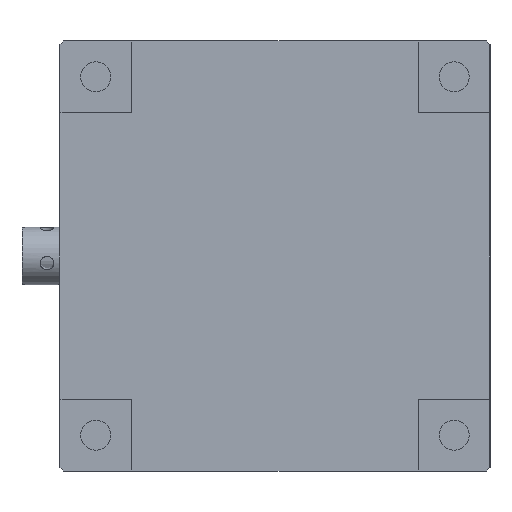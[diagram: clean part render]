
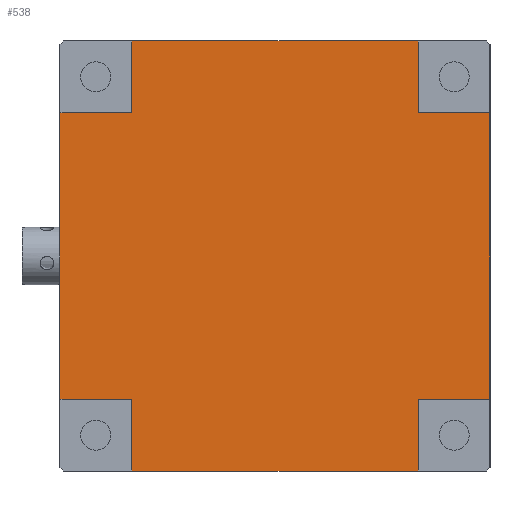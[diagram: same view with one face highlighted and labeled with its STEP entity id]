
A CAD part, front view. The second image highlights one B-rep face of the part: STEP entity #538.
In plain terms, the highlighted planar face has unit normal (0, -1, 0).
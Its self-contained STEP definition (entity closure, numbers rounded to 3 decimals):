
#22 = PLANE ( 'NONE',  #1274 ) ;
#46 = CARTESIAN_POINT ( 'NONE',  ( 0., 0.5, 0. ) ) ;
#211 = EDGE_CURVE ( 'NONE', #4213, #1615, #3093, .T. ) ;
#226 = ORIENTED_EDGE ( 'NONE', *, *, #1338, .F. ) ;
#228 = CARTESIAN_POINT ( 'NONE',  ( 0., 0.5, 10. ) ) ;
#233 = VECTOR ( 'NONE', #1187, 1000. ) ;
#241 = LINE ( 'NONE', #3134, #1198 ) ;
#297 = FACE_OUTER_BOUND ( 'NONE', #2827, .T. ) ;
#310 = CARTESIAN_POINT ( 'NONE',  ( 10., 0.5, 50. ) ) ;
#357 = VERTEX_POINT ( 'NONE', #228 ) ;
#413 = VECTOR ( 'NONE', #2462, 1000. ) ;
#444 = VERTEX_POINT ( 'NONE', #647 ) ;
#477 = CARTESIAN_POINT ( 'NONE',  ( 60., 0.5, 10. ) ) ;
#538 = ADVANCED_FACE ( 'NONE', ( #297 ), #22, .F. ) ;
#619 = LINE ( 'NONE', #971, #1986 ) ;
#638 = DIRECTION ( 'NONE',  ( 0., 0., 1. ) ) ;
#647 = CARTESIAN_POINT ( 'NONE',  ( 50., 0.5, 50. ) ) ;
#654 = VERTEX_POINT ( 'NONE', #4694 ) ;
#712 = EDGE_CURVE ( 'NONE', #887, #4192, #3730, .T. ) ;
#820 = LINE ( 'NONE', #3619, #960 ) ;
#835 = EDGE_CURVE ( 'NONE', #1615, #2717, #1902, .T. ) ;
#850 = CARTESIAN_POINT ( 'NONE',  ( 10., 0.5, 0. ) ) ;
#887 = VERTEX_POINT ( 'NONE', #4205 ) ;
#911 = EDGE_CURVE ( 'NONE', #4259, #1011, #2051, .T. ) ;
#934 = EDGE_CURVE ( 'NONE', #3988, #4018, #241, .T. ) ;
#960 = VECTOR ( 'NONE', #4014, 1000. ) ;
#971 = CARTESIAN_POINT ( 'NONE',  ( 0., 0.5, 10. ) ) ;
#1011 = VERTEX_POINT ( 'NONE', #3914 ) ;
#1182 = LINE ( 'NONE', #477, #3006 ) ;
#1187 = DIRECTION ( 'NONE',  ( 1., 0., 0. ) ) ;
#1198 = VECTOR ( 'NONE', #4606, 1000. ) ;
#1199 = ORIENTED_EDGE ( 'NONE', *, *, #911, .F. ) ;
#1274 = AXIS2_PLACEMENT_3D ( 'NONE', #46, #4004, #4309 ) ;
#1338 = EDGE_CURVE ( 'NONE', #4018, #4213, #1182, .T. ) ;
#1615 = VERTEX_POINT ( 'NONE', #3099 ) ;
#1637 = EDGE_CURVE ( 'NONE', #654, #357, #820, .T. ) ;
#1658 = CARTESIAN_POINT ( 'NONE',  ( 10., 0.5, 50. ) ) ;
#1672 = LINE ( 'NONE', #2494, #413 ) ;
#1680 = CARTESIAN_POINT ( 'NONE',  ( 60., 0.5, 50. ) ) ;
#1685 = DIRECTION ( 'NONE',  ( 1., 0., 0. ) ) ;
#1878 = DIRECTION ( 'NONE',  ( 0., 0., 1. ) ) ;
#1902 = LINE ( 'NONE', #3685, #3845 ) ;
#1917 = DIRECTION ( 'NONE',  ( -1., 0., 0. ) ) ;
#1945 = DIRECTION ( 'NONE',  ( 1., 0., 0. ) ) ;
#1986 = VECTOR ( 'NONE', #638, 1000. ) ;
#2051 = LINE ( 'NONE', #3499, #4098 ) ;
#2147 = ORIENTED_EDGE ( 'NONE', *, *, #2682, .F. ) ;
#2209 = ORIENTED_EDGE ( 'NONE', *, *, #4039, .F. ) ;
#2451 = ORIENTED_EDGE ( 'NONE', *, *, #712, .F. ) ;
#2462 = DIRECTION ( 'NONE',  ( 0., 0., -1. ) ) ;
#2494 = CARTESIAN_POINT ( 'NONE',  ( 50., 0.5, 60. ) ) ;
#2540 = ORIENTED_EDGE ( 'NONE', *, *, #934, .F. ) ;
#2588 = VECTOR ( 'NONE', #3519, 1000. ) ;
#2601 = CARTESIAN_POINT ( 'NONE',  ( 10., 0.5, 60. ) ) ;
#2667 = LINE ( 'NONE', #850, #4202 ) ;
#2673 = DIRECTION ( 'NONE',  ( -1., 0., 0. ) ) ;
#2682 = EDGE_CURVE ( 'NONE', #444, #3988, #3003, .T. ) ;
#2690 = CARTESIAN_POINT ( 'NONE',  ( 50., 0.5, 10. ) ) ;
#2692 = VECTOR ( 'NONE', #3480, 1000. ) ;
#2717 = VERTEX_POINT ( 'NONE', #4029 ) ;
#2768 = LINE ( 'NONE', #1658, #2588 ) ;
#2827 = EDGE_LOOP ( 'NONE', ( #4588, #226, #2540, #2147, #4651, #1199, #2209, #2451, #4229, #3289, #2966, #3423 ) ) ;
#2966 = ORIENTED_EDGE ( 'NONE', *, *, #3767, .F. ) ;
#3003 = LINE ( 'NONE', #3326, #233 ) ;
#3006 = VECTOR ( 'NONE', #1917, 1000. ) ;
#3093 = LINE ( 'NONE', #2690, #2692 ) ;
#3099 = CARTESIAN_POINT ( 'NONE',  ( 50., 0.5, 0. ) ) ;
#3134 = CARTESIAN_POINT ( 'NONE',  ( 60., 0.5, 50. ) ) ;
#3223 = EDGE_CURVE ( 'NONE', #357, #887, #619, .T. ) ;
#3235 = EDGE_CURVE ( 'NONE', #1011, #444, #1672, .T. ) ;
#3289 = ORIENTED_EDGE ( 'NONE', *, *, #1637, .F. ) ;
#3326 = CARTESIAN_POINT ( 'NONE',  ( 50., 0.5, 50. ) ) ;
#3423 = ORIENTED_EDGE ( 'NONE', *, *, #835, .F. ) ;
#3480 = DIRECTION ( 'NONE',  ( 0., 0., -1. ) ) ;
#3499 = CARTESIAN_POINT ( 'NONE',  ( 10., 0.5, 60. ) ) ;
#3519 = DIRECTION ( 'NONE',  ( 0., 0., 1. ) ) ;
#3619 = CARTESIAN_POINT ( 'NONE',  ( 10., 0.5, 10. ) ) ;
#3685 = CARTESIAN_POINT ( 'NONE',  ( 50., 0.5, 0. ) ) ;
#3730 = LINE ( 'NONE', #4124, #4401 ) ;
#3767 = EDGE_CURVE ( 'NONE', #2717, #654, #2667, .T. ) ;
#3795 = CARTESIAN_POINT ( 'NONE',  ( 60., 0.5, 10. ) ) ;
#3845 = VECTOR ( 'NONE', #2673, 1000. ) ;
#3914 = CARTESIAN_POINT ( 'NONE',  ( 50., 0.5, 60. ) ) ;
#3988 = VERTEX_POINT ( 'NONE', #1680 ) ;
#4004 = DIRECTION ( 'NONE',  ( 0., 1., 0. ) ) ;
#4014 = DIRECTION ( 'NONE',  ( -1., 0., 0. ) ) ;
#4018 = VERTEX_POINT ( 'NONE', #3795 ) ;
#4029 = CARTESIAN_POINT ( 'NONE',  ( 10., 0.5, 0. ) ) ;
#4039 = EDGE_CURVE ( 'NONE', #4192, #4259, #2768, .T. ) ;
#4098 = VECTOR ( 'NONE', #1685, 1000. ) ;
#4124 = CARTESIAN_POINT ( 'NONE',  ( 0., 0.5, 50. ) ) ;
#4192 = VERTEX_POINT ( 'NONE', #310 ) ;
#4202 = VECTOR ( 'NONE', #1878, 1000. ) ;
#4205 = CARTESIAN_POINT ( 'NONE',  ( 0., 0.5, 50. ) ) ;
#4213 = VERTEX_POINT ( 'NONE', #4409 ) ;
#4229 = ORIENTED_EDGE ( 'NONE', *, *, #3223, .F. ) ;
#4259 = VERTEX_POINT ( 'NONE', #2601 ) ;
#4309 = DIRECTION ( 'NONE',  ( 0., 0., 1. ) ) ;
#4401 = VECTOR ( 'NONE', #1945, 1000. ) ;
#4409 = CARTESIAN_POINT ( 'NONE',  ( 50., 0.5, 10. ) ) ;
#4588 = ORIENTED_EDGE ( 'NONE', *, *, #211, .F. ) ;
#4606 = DIRECTION ( 'NONE',  ( 0., 0., -1. ) ) ;
#4651 = ORIENTED_EDGE ( 'NONE', *, *, #3235, .F. ) ;
#4694 = CARTESIAN_POINT ( 'NONE',  ( 10., 0.5, 10. ) ) ;
